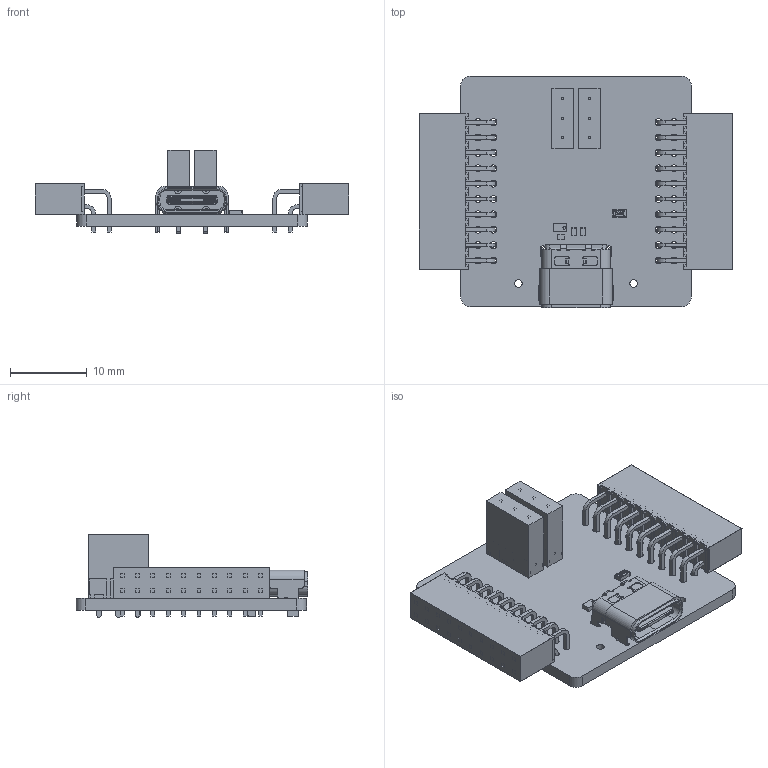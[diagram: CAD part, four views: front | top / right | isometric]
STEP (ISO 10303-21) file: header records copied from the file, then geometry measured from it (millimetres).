
FILE_DESCRIPTION(('Open CASCADE Model'),'2;1');
FILE_NAME('Open CASCADE Shape Model','2023-10-04T14:07:22',('Author'),( 'Open CASCADE'),'Open CASCADE STEP processor 6.8','Open CASCADE 6.8' ,'Unknown');
FILE_SCHEMA(('AUTOMOTIVE_DESIGN { 1 0 10303 214 1 1 1 1 }'));
Length unit declared in the file: millimetre
Products named in the file (41): PCB; Board; Open CASCADE STEP translator 6.8 1.1.1; U1; 6461909776; Extruded; 6461909296; Cylinder; SB1; R0603; 6461910736; R2; R0402; 6461908736; R1; JP2; TSW-103-07-F-S; _TSW-103-07-F-S_body; _T-1S6-07-TSW-1-07-3-S; 6461907616; JP1; CN3; SQT-110-01-F-D-RA; _SQT-110-01-F-D-RA_socket; _SQT-110-01-F-D-RA_pins; 6461911456; CN2; 6461911616; CN1; 2012670005_RGB8421504; Open CASCADE STEP translator 6.8 1.10.1.1; Open CASCADE STEP translator 6.8 1.10.1.2; C1; C0402; 6461910176
Assembly tree (45 placements, depth 4):
  PCB
    Board
      Open CASCADE STEP translator 6.8 1.1.1
    U1
      6461909776
        Extruded
      6461909296
        Cylinder
    SB1
      R0603
      6461910736
        Extruded
    R2
      R0402
      6461908736
        Extruded
    R1
      R0402
      6461908736
        Extruded
    JP2
      TSW-103-07-F-S
        _TSW-103-07-F-S_body
        _T-1S6-07-TSW-1-07-3-S
      6461907616
        Extruded
    JP1
      TSW-103-07-F-S
        _TSW-103-07-F-S_body
        _T-1S6-07-TSW-1-07-3-S
      6461907616
        Extruded
    CN3
      SQT-110-01-F-D-RA
        _SQT-110-01-F-D-RA_socket
        _SQT-110-01-F-D-RA_pins
      6461911456
        Extruded
    CN2
      SQT-110-01-F-D-RA
        _SQT-110-01-F-D-RA_socket
        _SQT-110-01-F-D-RA_pins
      6461911616
        Extruded
    CN1
      2012670005_RGB8421504
        Open CASCADE STEP translator 6.8 1.10.1.1
        Open CASCADE STEP translator 6.8 1.10.1.2
    C1
      C0402
      6461910176
        Extruded
Bounding box: 40.8 x 30.18 x 10.92 mm (x, y, z)
Volume: 3988.1 mm3; surface area: 6985.6 mm2
Topology: 31 solids, 31 shells, 3128 faces, 8343 edges, 5488 vertices
Faces by surface type: plane 2164, cylinder 625, bspline 185, sphere 106, torus 26, cone 14, revolution 8
Full cylindrical faces by diameter (mm): 0.4 x1, 0.9 x40, 1 x8
Entity records: 84285 total; most frequent: CARTESIAN_POINT 18377, ORIENTED_EDGE 10998, DIRECTION 10309, EDGE_CURVE 5499, LINE 4349, VECTOR 4349, VERTEX_POINT 3552, AXIS2_PLACEMENT_3D 2976
